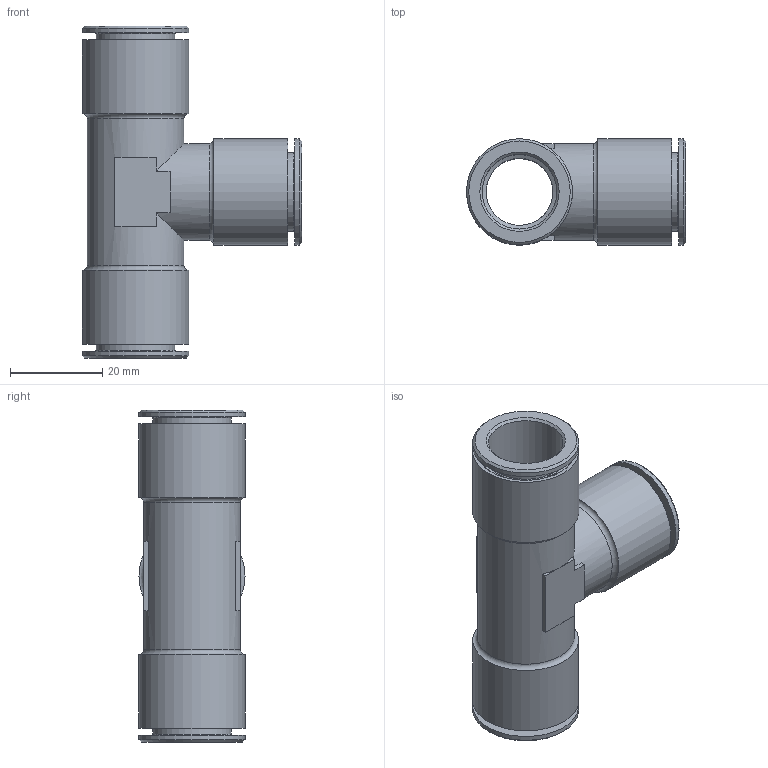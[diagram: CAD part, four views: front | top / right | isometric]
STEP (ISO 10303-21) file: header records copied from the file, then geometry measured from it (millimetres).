
FILE_DESCRIPTION(/* description */ (''),/* implementation_level */ '2;1');
FILE_NAME(/* name */ 'V200511_IPSO_05_16_08.02.17',/* time_stamp */ '2017-02-08T10:01:13+01:00',/* author */ (''),/* organization */ (''),/* preprocessor_version */ 'ST-DEVELOPER v16.5',/* originating_system */ 'HiCAD 2016 2102.0 Build 402',/* authorisation */ '');
FILE_SCHEMA (('AUTOMOTIVE_DESIGN { 1 0 10303 214 1 1 1 1 }'));
Length unit declared in the file: millimetre
Products named in the file (5): Root; R200511; DR16
Assembly tree (4 placements, depth 2):
  Root
    R200511
    DR16
    DR16
    DR16
Bounding box: 47.5 x 23 x 72 mm (x, y, z)
Volume: 13811.9 mm3; surface area: 18297.7 mm2
Topology: 4 solids, 4 shells, 100 faces, 205 edges, 124 vertices
Faces by surface type: plane 45, cylinder 28, cone 15, torus 12
Full cylindrical faces by diameter (mm): 14.5 x2, 16.2 x6, 17 x3, 17.2 x3, 20.2 x3, 20.4 x3, 21 x2, 23 x6
Entity records: 3766 total; most frequent: DIRECTION 446, CARTESIAN_POINT 362, PRESENTATION_STYLE_ASSIGNMENT 282, COLOUR_RGB 280, DRAUGHTING_PRE_DEFINED_CURVE_FONT 278, CURVE_STYLE 278, OVER_RIDING_STYLED_ITEM 278, ORIENTED_EDGE 278
